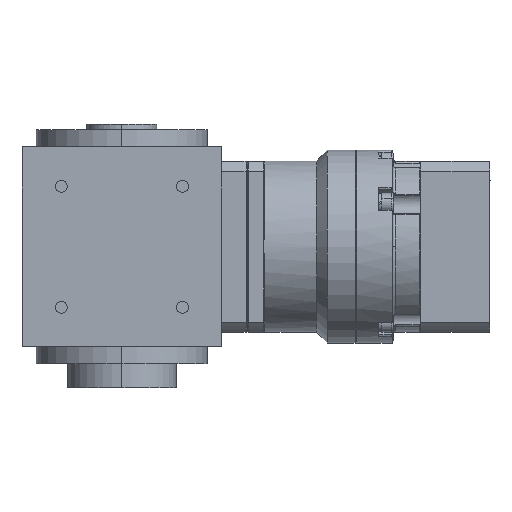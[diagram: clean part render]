
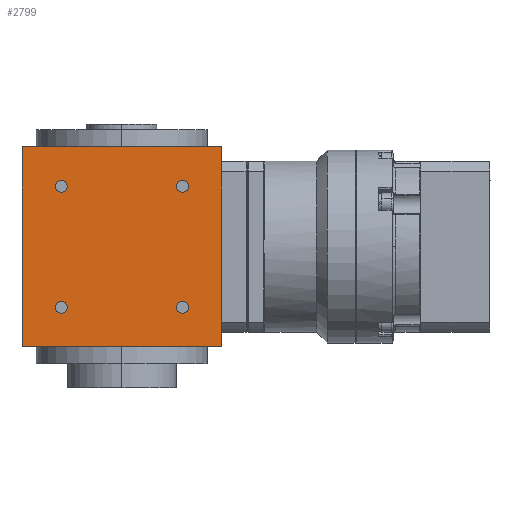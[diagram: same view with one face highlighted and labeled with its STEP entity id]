
A CAD part, left-side view. The second image highlights one B-rep face of the part: STEP entity #2799.
In plain terms, the highlighted planar face has unit normal (-1, 0, 0).
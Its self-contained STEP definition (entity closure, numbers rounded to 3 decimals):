
#362 = VECTOR ( 'NONE', #4313, 1000. ) ;
#866 = CARTESIAN_POINT ( 'NONE',  ( -35., -21.213, -21.213 ) ) ;
#915 = CIRCLE ( 'NONE', #29523, 2.1 ) ;
#944 = DIRECTION ( 'NONE',  ( 0., -1., 0. ) ) ;
#1121 = CARTESIAN_POINT ( 'NONE',  ( -35., -35., -35. ) ) ;
#1260 = CIRCLE ( 'NONE', #24227, 2.1 ) ;
#1311 = EDGE_CURVE ( 'NONE', #13687, #6201, #4317, .T. ) ;
#1516 = VERTEX_POINT ( 'NONE', #18028 ) ;
#1590 = DIRECTION ( 'NONE',  ( 0., -1., 0. ) ) ;
#1634 = CIRCLE ( 'NONE', #9334, 2.1 ) ;
#2326 = VERTEX_POINT ( 'NONE', #15828 ) ;
#2340 = EDGE_CURVE ( 'NONE', #18775, #28492, #8407, .T. ) ;
#2532 = VERTEX_POINT ( 'NONE', #16944 ) ;
#2799 = ADVANCED_FACE ( 'NONE', ( #8783, #25858, #28416, #16257, #18508 ), #18811, .T. ) ;
#3284 = CARTESIAN_POINT ( 'NONE',  ( -35., -21.213, -21.213 ) ) ;
#3696 = DIRECTION ( 'NONE',  ( 1., 0., 0. ) ) ;
#3945 = CARTESIAN_POINT ( 'NONE',  ( -35., 21.213, -21.213 ) ) ;
#3949 = CARTESIAN_POINT ( 'NONE',  ( -35., 35., -35. ) ) ;
#4313 = DIRECTION ( 'NONE',  ( 0., -1., 0. ) ) ;
#4317 = LINE ( 'NONE', #21097, #19610 ) ;
#5036 = ORIENTED_EDGE ( 'NONE', *, *, #7795, .F. ) ;
#5644 = DIRECTION ( 'NONE',  ( 0., -1., 0. ) ) ;
#5948 = CARTESIAN_POINT ( 'NONE',  ( -35., 23.313, -21.213 ) ) ;
#6201 = VERTEX_POINT ( 'NONE', #12431 ) ;
#6733 = EDGE_CURVE ( 'NONE', #10817, #2326, #17618, .T. ) ;
#7638 = ORIENTED_EDGE ( 'NONE', *, *, #25933, .T. ) ;
#7795 = EDGE_CURVE ( 'NONE', #6201, #1516, #14296, .T. ) ;
#7888 = AXIS2_PLACEMENT_3D ( 'NONE', #22853, #24515, #944 ) ;
#7937 = CIRCLE ( 'NONE', #30794, 2.1 ) ;
#8269 = EDGE_LOOP ( 'NONE', ( #12557, #5036, #22533, #9391 ) ) ;
#8371 = CARTESIAN_POINT ( 'NONE',  ( -35., 21.213, -21.213 ) ) ;
#8407 = CIRCLE ( 'NONE', #7888, 2.1 ) ;
#8501 = LINE ( 'NONE', #18697, #362 ) ;
#8783 = FACE_BOUND ( 'NONE', #12221, .T. ) ;
#8833 = AXIS2_PLACEMENT_3D ( 'NONE', #866, #15900, #30272 ) ;
#9334 = AXIS2_PLACEMENT_3D ( 'NONE', #3284, #19767, #27738 ) ;
#9352 = EDGE_CURVE ( 'NONE', #28492, #18775, #1260, .T. ) ;
#9391 = ORIENTED_EDGE ( 'NONE', *, *, #18063, .T. ) ;
#9534 = DIRECTION ( 'NONE',  ( 0., -1., 0. ) ) ;
#10360 = CARTESIAN_POINT ( 'NONE',  ( -35., 35., -35. ) ) ;
#10817 = VERTEX_POINT ( 'NONE', #5948 ) ;
#11084 = CARTESIAN_POINT ( 'NONE',  ( -35., 21.213, 21.213 ) ) ;
#12221 = EDGE_LOOP ( 'NONE', ( #7638, #23048 ) ) ;
#12431 = CARTESIAN_POINT ( 'NONE',  ( -35., 35., 35. ) ) ;
#12557 = ORIENTED_EDGE ( 'NONE', *, *, #26033, .F. ) ;
#12910 = CARTESIAN_POINT ( 'NONE',  ( -35., -35., -35. ) ) ;
#13687 = VERTEX_POINT ( 'NONE', #10360 ) ;
#13749 = EDGE_CURVE ( 'NONE', #24258, #30822, #1634, .T. ) ;
#14296 = LINE ( 'NONE', #24027, #28645 ) ;
#15455 = CIRCLE ( 'NONE', #8833, 2.1 ) ;
#15828 = CARTESIAN_POINT ( 'NONE',  ( -35., 19.113, -21.213 ) ) ;
#15859 = CARTESIAN_POINT ( 'NONE',  ( -35., 21.213, 21.213 ) ) ;
#15900 = DIRECTION ( 'NONE',  ( 1., 0., 0. ) ) ;
#16148 = DIRECTION ( 'NONE',  ( 0., 0., 1. ) ) ;
#16160 = DIRECTION ( 'NONE',  ( 1., 0., 0. ) ) ;
#16257 = FACE_BOUND ( 'NONE', #28649, .T. ) ;
#16944 = CARTESIAN_POINT ( 'NONE',  ( -35., 23.313, 21.213 ) ) ;
#17194 = AXIS2_PLACEMENT_3D ( 'NONE', #15859, #3696, #20811 ) ;
#17228 = CARTESIAN_POINT ( 'NONE',  ( -35., -23.313, 21.213 ) ) ;
#17618 = CIRCLE ( 'NONE', #30799, 2.1 ) ;
#17683 = EDGE_CURVE ( 'NONE', #2532, #18195, #22788, .T. ) ;
#18028 = CARTESIAN_POINT ( 'NONE',  ( -35., -35., 35. ) ) ;
#18063 = EDGE_CURVE ( 'NONE', #13687, #18695, #8501, .T. ) ;
#18097 = DIRECTION ( 'NONE',  ( 1., 0., 0. ) ) ;
#18195 = VERTEX_POINT ( 'NONE', #21254 ) ;
#18508 = FACE_OUTER_BOUND ( 'NONE', #8269, .T. ) ;
#18695 = VERTEX_POINT ( 'NONE', #12910 ) ;
#18697 = CARTESIAN_POINT ( 'NONE',  ( -35., 0., -35. ) ) ;
#18773 = ORIENTED_EDGE ( 'NONE', *, *, #23196, .T. ) ;
#18775 = VERTEX_POINT ( 'NONE', #25176 ) ;
#18811 = PLANE ( 'NONE',  #24210 ) ;
#19610 = VECTOR ( 'NONE', #16148, 1000. ) ;
#19767 = DIRECTION ( 'NONE',  ( 1., 0., 0. ) ) ;
#19806 = EDGE_CURVE ( 'NONE', #2326, #10817, #915, .T. ) ;
#20811 = DIRECTION ( 'NONE',  ( 0., -1., 0. ) ) ;
#20858 = ORIENTED_EDGE ( 'NONE', *, *, #19806, .T. ) ;
#21097 = CARTESIAN_POINT ( 'NONE',  ( -35., 35., -35. ) ) ;
#21254 = CARTESIAN_POINT ( 'NONE',  ( -35., 19.113, 21.213 ) ) ;
#21371 = DIRECTION ( 'NONE',  ( 0., -1., 0. ) ) ;
#21393 = ORIENTED_EDGE ( 'NONE', *, *, #13749, .T. ) ;
#22533 = ORIENTED_EDGE ( 'NONE', *, *, #1311, .F. ) ;
#22788 = CIRCLE ( 'NONE', #17194, 2.1 ) ;
#22853 = CARTESIAN_POINT ( 'NONE',  ( -35., -21.213, 21.213 ) ) ;
#23048 = ORIENTED_EDGE ( 'NONE', *, *, #17683, .T. ) ;
#23196 = EDGE_CURVE ( 'NONE', #30822, #24258, #15455, .T. ) ;
#23442 = DIRECTION ( 'NONE',  ( 1., 0., 0. ) ) ;
#23603 = DIRECTION ( 'NONE',  ( 0., -1., 0. ) ) ;
#23820 = ORIENTED_EDGE ( 'NONE', *, *, #2340, .T. ) ;
#24027 = CARTESIAN_POINT ( 'NONE',  ( -35., 0., 35. ) ) ;
#24143 = EDGE_LOOP ( 'NONE', ( #26130, #23820 ) ) ;
#24210 = AXIS2_PLACEMENT_3D ( 'NONE', #3949, #26009, #21371 ) ;
#24227 = AXIS2_PLACEMENT_3D ( 'NONE', #30246, #30412, #25778 ) ;
#24234 = VECTOR ( 'NONE', #28140, 1000. ) ;
#24258 = VERTEX_POINT ( 'NONE', #29630 ) ;
#24515 = DIRECTION ( 'NONE',  ( 1., 0., 0. ) ) ;
#25176 = CARTESIAN_POINT ( 'NONE',  ( -35., -19.113, 21.213 ) ) ;
#25778 = DIRECTION ( 'NONE',  ( 0., -1., 0. ) ) ;
#25858 = FACE_BOUND ( 'NONE', #24143, .T. ) ;
#25933 = EDGE_CURVE ( 'NONE', #18195, #2532, #7937, .T. ) ;
#26009 = DIRECTION ( 'NONE',  ( -1., 0., 0. ) ) ;
#26033 = EDGE_CURVE ( 'NONE', #1516, #18695, #28305, .T. ) ;
#26130 = ORIENTED_EDGE ( 'NONE', *, *, #9352, .T. ) ;
#27738 = DIRECTION ( 'NONE',  ( 0., -1., 0. ) ) ;
#27760 = CARTESIAN_POINT ( 'NONE',  ( -35., -19.113, -21.213 ) ) ;
#28140 = DIRECTION ( 'NONE',  ( 0., 0., -1. ) ) ;
#28305 = LINE ( 'NONE', #1121, #24234 ) ;
#28416 = FACE_BOUND ( 'NONE', #30197, .T. ) ;
#28492 = VERTEX_POINT ( 'NONE', #17228 ) ;
#28645 = VECTOR ( 'NONE', #9534, 1000. ) ;
#28649 = EDGE_LOOP ( 'NONE', ( #20858, #30302 ) ) ;
#29523 = AXIS2_PLACEMENT_3D ( 'NONE', #3945, #23442, #23603 ) ;
#29630 = CARTESIAN_POINT ( 'NONE',  ( -35., -23.313, -21.213 ) ) ;
#30197 = EDGE_LOOP ( 'NONE', ( #21393, #18773 ) ) ;
#30246 = CARTESIAN_POINT ( 'NONE',  ( -35., -21.213, 21.213 ) ) ;
#30272 = DIRECTION ( 'NONE',  ( 0., -1., 0. ) ) ;
#30302 = ORIENTED_EDGE ( 'NONE', *, *, #6733, .T. ) ;
#30412 = DIRECTION ( 'NONE',  ( 1., 0., 0. ) ) ;
#30794 = AXIS2_PLACEMENT_3D ( 'NONE', #11084, #16160, #1590 ) ;
#30799 = AXIS2_PLACEMENT_3D ( 'NONE', #8371, #18097, #5644 ) ;
#30822 = VERTEX_POINT ( 'NONE', #27760 ) ;
